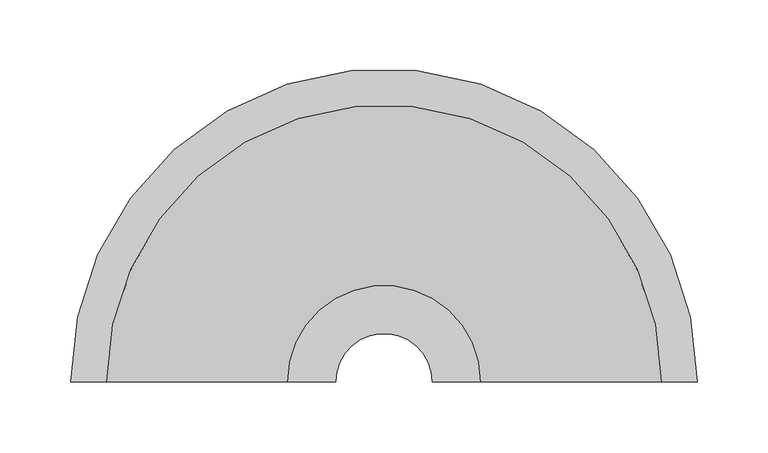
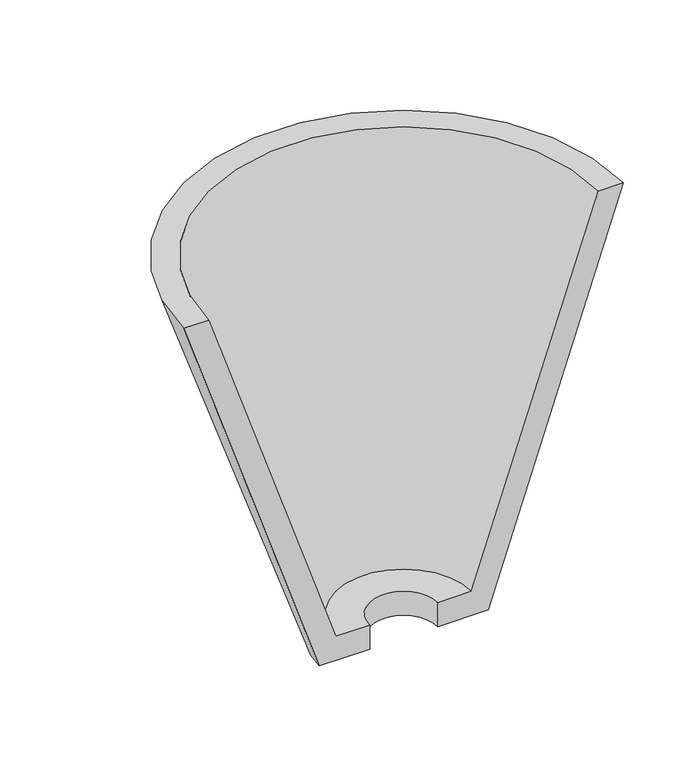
"""IFC4 building model written with IfcOpenShell, lengths in millimetres: light fixture geometry, M_Applique : 100 watt Incandescente."""

from ifc_helpers import new_model, si_unit, frame, origin, place, context, project, spatial, polyline, circle_curve, source, transform, mapped, element, save
from ifc_brep_helpers import plane_surface, revolved_surface, advanced_brep


def light_fixture_c75c11d5(model_context):
    return source(origin(), model_context, "Body", "AdvancedBrep", [
        advanced_brep(
        [(-221.2056669, 62.5, 2103.2), (-85.0253975, 62.5, 1696.8), (-34.2253975, 62.5, 1696.8), (-34.2253975, 62.5, 1722.2), (-68.1366644, 62.5, 1722.2), (-195.8056669, 62.5, 2103.2), (221.2056669, 62.5, 2103.2), (195.8056669, 62.5, 2103.2), (68.1366644, 62.5, 1722.2), (34.2253975, 62.5, 1722.2), (34.2253975, 62.5, 1696.8), (85.0253975, 62.5, 1696.8)],
        [
            (0, 1),
            (1, 2),
            (2, 3),
            (3, 4),
            (4, 5),
            (5, 0),
            (6, 7),
            (7, 8),
            (8, 9),
            (9, 10),
            (10, 11),
            (11, 6),
            (11, 1, circle_curve(frame((0.0, 62.5, 1696.8), z_axis=(0.0, 0.0, 1.0), x_axis=(-1.0, 0.0, 0.0)), 85.0253975)),
            (0, 6, circle_curve(frame((0.0, 62.5, 2103.2), z_axis=(0.0, 0.0, -1.0), x_axis=(-1.0, 0.0, 0.0)), 221.2056669)),
            (10, 2, circle_curve(frame((0.0, 62.5, 1696.8), z_axis=(0.0, 0.0, 1.0), x_axis=(-1.0, 0.0, 0.0)), 34.2253975)),
            (9, 3, circle_curve(frame((0.0, 62.5, 1722.2), z_axis=(0.0, 0.0, 1.0), x_axis=(-1.0, 0.0, 0.0)), 34.2253975)),
            (8, 4, circle_curve(frame((0.0, 62.5, 1722.2), z_axis=(0.0, 0.0, 1.0), x_axis=(-1.0, 0.0, 0.0)), 68.1366644)),
            (7, 5, circle_curve(frame((0.0, 62.5, 2103.2), z_axis=(0.0, 0.0, 1.0), x_axis=(-1.0, 0.0, 0.0)), 195.8056669)),
        ],
        [
            plane_surface(frame((0.0, 62.5, 1936.774367), z_axis=(0.0, -1.0, 0.0), x_axis=(-1.0, 0.0, 0.0))),
            plane_surface(frame((0.0, 62.5, 1936.774367), z_axis=(0.0, -1.0, 0.0), x_axis=(1.0, 0.0, 0.0))),
            revolved_surface(polyline([(-221.2056669, 62.5, 2103.2), (-85.0253975, 62.5, 1696.8)]), (0.0, 62.5, 1936.774367), (0.0, 0.0, -1.0)),
            plane_surface(frame((0.0, 62.5, 1696.8), z_axis=(0.0, 0.0, -1.0), x_axis=(-1.0, 0.0, 0.0))),
            revolved_surface(polyline([(-34.2253975, 62.5, 1696.8), (-34.2253975, 62.5, 1722.2)]), (0.0, 62.5, 1936.774367), (0.0, 0.0, -1.0)),
            plane_surface(frame((0.0, 62.5, 1722.2), z_axis=(0.0, 0.0, 1.0), x_axis=(-1.0, 0.0, 0.0))),
            revolved_surface(polyline([(-68.1366644, 62.5, 1722.2), (-195.8056669, 62.5, 2103.2)]), (0.0, 62.5, 1936.774367), (0.0, 0.0, -1.0)),
            plane_surface(frame((0.0, 62.5, 2103.2), z_axis=(0.0, 0.0, 1.0), x_axis=(-1.0, 0.0, 0.0))),
        ],
        [
            (0, [[1, 2, 3, 4, 5, 6]]),
            (1, [[7, 8, 9, 10, 11, 12]]),
            (2, [[13, -1, 14, -12]]),
            (3, [[15, -2, -13, -11]]),
            (4, [[16, -3, -15, -10]]),
            (5, [[17, -4, -16, -9]]),
            (6, [[18, -5, -17, -8]]),
            (7, [[-14, -6, -18, -7]]),
        ],
    ),
    ])


if __name__ == "__main__":
    model = new_model("IFC4")
    model_context = context("Model", 3, world=origin())
    ifc_project = project(units=[si_unit("LENGTHUNIT", "METRE", prefix="MILLI")], contexts=[model_context])
    site = spatial("IfcSite", under=ifc_project)
    building = spatial("IfcBuilding", under=site)
    placement = place(None, origin())
    light_fixture_shape = light_fixture_c75c11d5(model_context)
    element("IfcLightFixture", 1, ObjectType="M_Applique : 100 watt Incandescente", at=placement, inside=building, context=model_context, shape_type="MappedRepresentation", body=[
        mapped(light_fixture_shape, transform((0.0, 0.0, 0.0), x_axis=(1.0, 0.0, 0.0), y_axis=(0.0, 1.0, 0.0), z_axis=(0.0, 0.0, 1.0))),
    ])
    save(model, "model.ifc")
